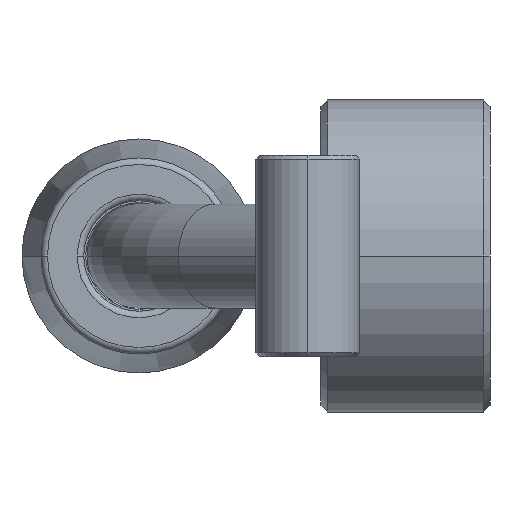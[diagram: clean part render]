
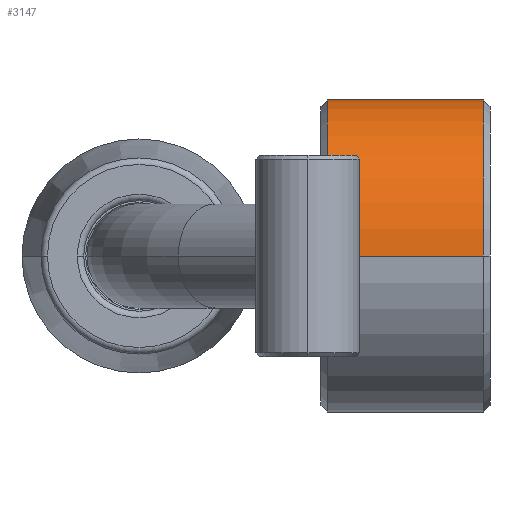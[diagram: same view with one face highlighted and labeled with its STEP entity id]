
A CAD part, left-side view. The second image highlights one B-rep face of the part: STEP entity #3147.
In plain terms, the highlighted cylindrical face has radius 12 mm (diameter 24 mm), a partial arc.
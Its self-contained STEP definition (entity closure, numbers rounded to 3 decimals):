
#1213=CARTESIAN_POINT('',(0.,0.,-0.5));
#1214=DIRECTION('',(0.,0.,-1.));
#1215=DIRECTION('',(1.,0.,0.));
#1216=AXIS2_PLACEMENT_3D('',#1213,#1214,#1215);
#1218=DIRECTION('',(0.,0.,-1.));
#1219=VECTOR('',#1218,12.);
#1220=CARTESIAN_POINT('',(12.,0.,
-0.5));
#1221=LINE('',#1220,#1219);
#1222=CARTESIAN_POINT('',(0.,0.,-12.5));
#1223=DIRECTION('',(0.,0.,-1.));
#1224=DIRECTION('',(1.,0.,0.));
#1225=AXIS2_PLACEMENT_3D('',#1222,#1223,#1224);
#1227=DIRECTION('',(0.,0.,-1.));
#1228=VECTOR('',#1227,12.);
#1229=CARTESIAN_POINT('',(-12.,0.,
-0.5));
#1230=LINE('',#1229,#1228);
#2057=CARTESIAN_POINT('',(-12.,0.,-12.5));
#2058=CARTESIAN_POINT('',(12.,0.,-12.5));
#2059=VERTEX_POINT('',#2057);
#2060=VERTEX_POINT('',#2058);
#2533=CARTESIAN_POINT('',(12.,0.,-0.5));
#2534=CARTESIAN_POINT('',(-12.,0.,-0.5));
#2535=VERTEX_POINT('',#2533);
#2536=VERTEX_POINT('',#2534);
#3133=CARTESIAN_POINT('',(0.,0.,-13.65));
#3134=DIRECTION('',(0.,0.,1.));
#3135=DIRECTION('',(-1.,0.,0.));
#3136=AXIS2_PLACEMENT_3D('',#3133,#3134,#3135);
#3137=CYLINDRICAL_SURFACE('',#3136,12.);
#3139=ORIENTED_EDGE('',*,*,#3138,.F.);
#3141=ORIENTED_EDGE('',*,*,#3140,.T.);
#3142=ORIENTED_EDGE('',*,*,#3127,.T.);
#3144=ORIENTED_EDGE('',*,*,#3143,.F.);
#3145=EDGE_LOOP('',(#3139,#3141,#3142,#3144));
#3146=FACE_OUTER_BOUND('',#3145,.F.);
#3147=ADVANCED_FACE('',(#3146),#3137,.T.);
#1217=CIRCLE('',#1216,12.);
#1226=CIRCLE('',#1225,12.);
#3127=EDGE_CURVE('',#2060,#2059,#1226,.T.);
#3138=EDGE_CURVE('',#2535,#2536,#1217,.T.);
#3140=EDGE_CURVE('',#2535,#2060,#1221,.T.);
#3143=EDGE_CURVE('',#2536,#2059,#1230,.T.);
